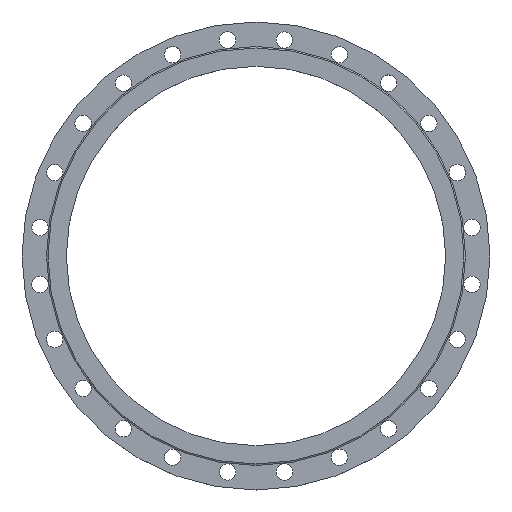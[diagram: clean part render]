
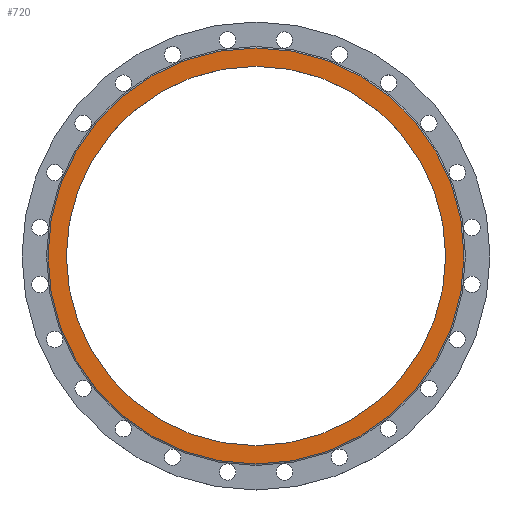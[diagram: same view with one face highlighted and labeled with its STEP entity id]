
A CAD part, top view. The second image highlights one B-rep face of the part: STEP entity #720.
In plain terms, the highlighted planar face has unit normal (0, 0, 1).
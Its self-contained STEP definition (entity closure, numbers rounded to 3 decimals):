
#124=FACE_BOUND('',#239,.T.);
#179=FACE_OUTER_BOUND('',#238,.T.);
#238=EDGE_LOOP('',(#643,#644));
#239=EDGE_LOOP('',(#645,#646));
#297=CIRCLE('',#775,420.);
#298=CIRCLE('',#776,420.);
#329=CIRCLE('',#834,383.);
#330=CIRCLE('',#835,383.);
#364=VERTEX_POINT('',#1135);
#365=VERTEX_POINT('',#1137);
#396=VERTEX_POINT('',#1252);
#397=VERTEX_POINT('',#1254);
#431=EDGE_CURVE('',#365,#364,#297,.T.);
#432=EDGE_CURVE('',#364,#365,#298,.T.);
#489=EDGE_CURVE('',#397,#396,#329,.T.);
#490=EDGE_CURVE('',#396,#397,#330,.T.);
#643=ORIENTED_EDGE('',*,*,#431,.T.);
#644=ORIENTED_EDGE('',*,*,#432,.T.);
#645=ORIENTED_EDGE('',*,*,#489,.T.);
#646=ORIENTED_EDGE('',*,*,#490,.T.);
#689=PLANE('',#836);
#720=ADVANCED_FACE('',(#179,#124),#689,.T.);
#775=AXIS2_PLACEMENT_3D('',#1138,#909,#910);
#776=AXIS2_PLACEMENT_3D('',#1139,#911,#912);
#834=AXIS2_PLACEMENT_3D('',#1255,#1053,#1054);
#835=AXIS2_PLACEMENT_3D('',#1256,#1055,#1056);
#836=AXIS2_PLACEMENT_3D('',#1257,#1057,#1058);
#909=DIRECTION('center_axis',(0.,0.,1.));
#910=DIRECTION('ref_axis',(-1.,0.,0.));
#911=DIRECTION('center_axis',(0.,0.,1.));
#912=DIRECTION('ref_axis',(-1.,0.,0.));
#1053=DIRECTION('center_axis',(0.,0.,-1.));
#1054=DIRECTION('ref_axis',(1.,0.,0.));
#1055=DIRECTION('center_axis',(0.,0.,-1.));
#1056=DIRECTION('ref_axis',(1.,0.,0.));
#1057=DIRECTION('center_axis',(0.,0.,1.));
#1058=DIRECTION('ref_axis',(1.,0.,0.));
#1135=CARTESIAN_POINT('',(420.,0.,0.));
#1137=CARTESIAN_POINT('',(-420.,0.,0.));
#1138=CARTESIAN_POINT('Origin',(0.,0.,0.));
#1139=CARTESIAN_POINT('Origin',(0.,0.,0.));
#1252=CARTESIAN_POINT('',(383.,0.,0.));
#1254=CARTESIAN_POINT('',(-383.,0.,0.));
#1255=CARTESIAN_POINT('Origin',(0.,0.,0.));
#1256=CARTESIAN_POINT('Origin',(0.,0.,0.));
#1257=CARTESIAN_POINT('Origin',(-472.5,0.,0.));
